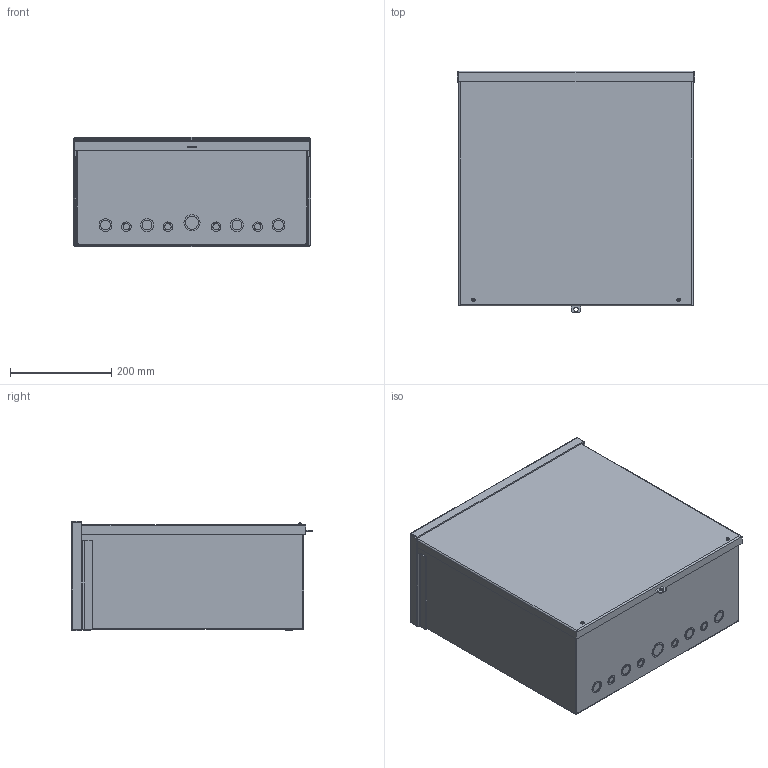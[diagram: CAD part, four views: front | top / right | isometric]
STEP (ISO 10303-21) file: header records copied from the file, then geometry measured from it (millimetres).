
FILE_DESCRIPTION((''),'1');
FILE_NAME('22','2001-04-17T',('jlue'),(''),'PRO/ENGINEER BY PARAMETRIC TECHNOLOGY CORPORATION, 9846','PRO/ENGINEER BY PARAMETRIC TECHNOLOGY CORPORATION, 9846','');
FILE_SCHEMA(('CONFIG_CONTROL_DESIGN'));
Length unit declared in the file: inch
Products named in the file (1): 22
Bounding box: 469.9 x 478.28 x 217.3 mm (x, y, z)
Surface area: 1736422.7 mm2 (no closed solid volume)
Topology: 0 solids, 0 shells, 204 faces, 1035 edges, 1056 vertices
Faces by surface type: plane 109, cylinder 87, sphere 8
Entity records: 5363 total; most frequent: DIRECTION 1108, COMPOSITE_CURVE_SEGMENT 982, CARTESIAN_POINT 838, TRIMMED_CURVE 510, AXIS2_PLACEMENT_3D 394, VECTOR 320, LINE 320, CURVE_BOUNDED_SURFACE 204
